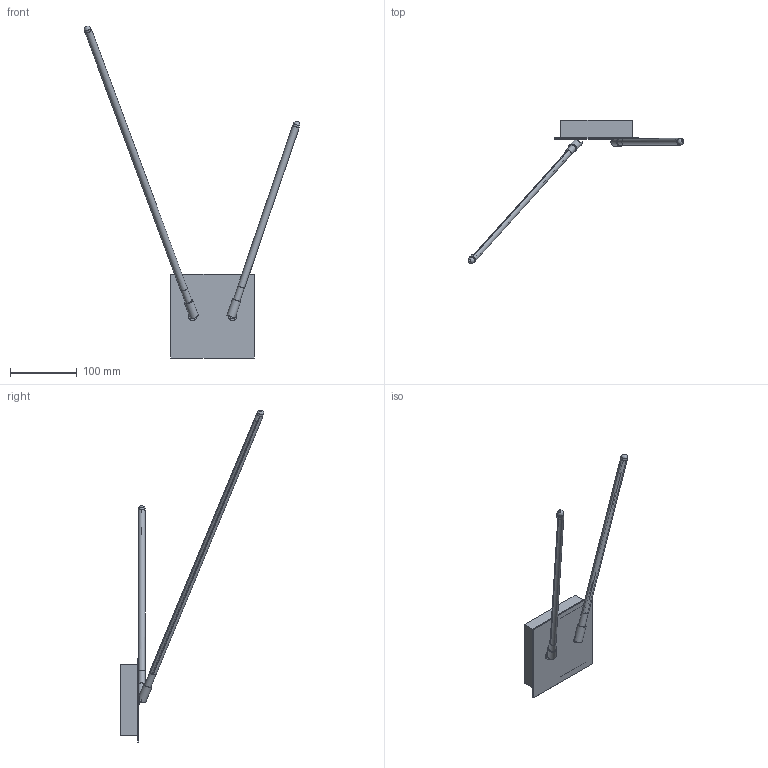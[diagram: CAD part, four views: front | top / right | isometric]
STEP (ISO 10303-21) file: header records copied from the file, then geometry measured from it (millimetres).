
FILE_DESCRIPTION(/* description */ (''),/* implementation_level */ '2;1');
FILE_NAME(/* name */ '4632',/* time_stamp */ '2021-11-16T13:46:39+01:00',/* author */ (''),/* organization */ (''),/* preprocessor_version */ 'ST-DEVELOPER v16.5',/* originating_system */ '',/* authorisation */ '');
FILE_SCHEMA (('CONFIG_CONTROL_DESIGN'));
Length unit declared in the file: millimetre
Products named in the file (1): Document
Bounding box: 322.69 x 214.6 x 496.58 mm (x, y, z)
Volume: 364743 mm3; surface area: 124043.2 mm2
Topology: 14 solids, 14 shells, 120 faces, 274 edges, 190 vertices
Faces by surface type: plane 69, cylinder 26, bspline 25
Full cylindrical faces by diameter (mm): 3.5 x2, 8 x4, 10 x4, 13 x4
Entity records: 3554 total; most frequent: CARTESIAN_POINT 1578, ORIENTED_EDGE 532, EDGE_CURVE 266, B_SPLINE_CURVE_WITH_KNOTS 198, VERTEX_POINT 178, EDGE_LOOP 128, ADVANCED_FACE 120, FACE_OUTER_BOUND 120
